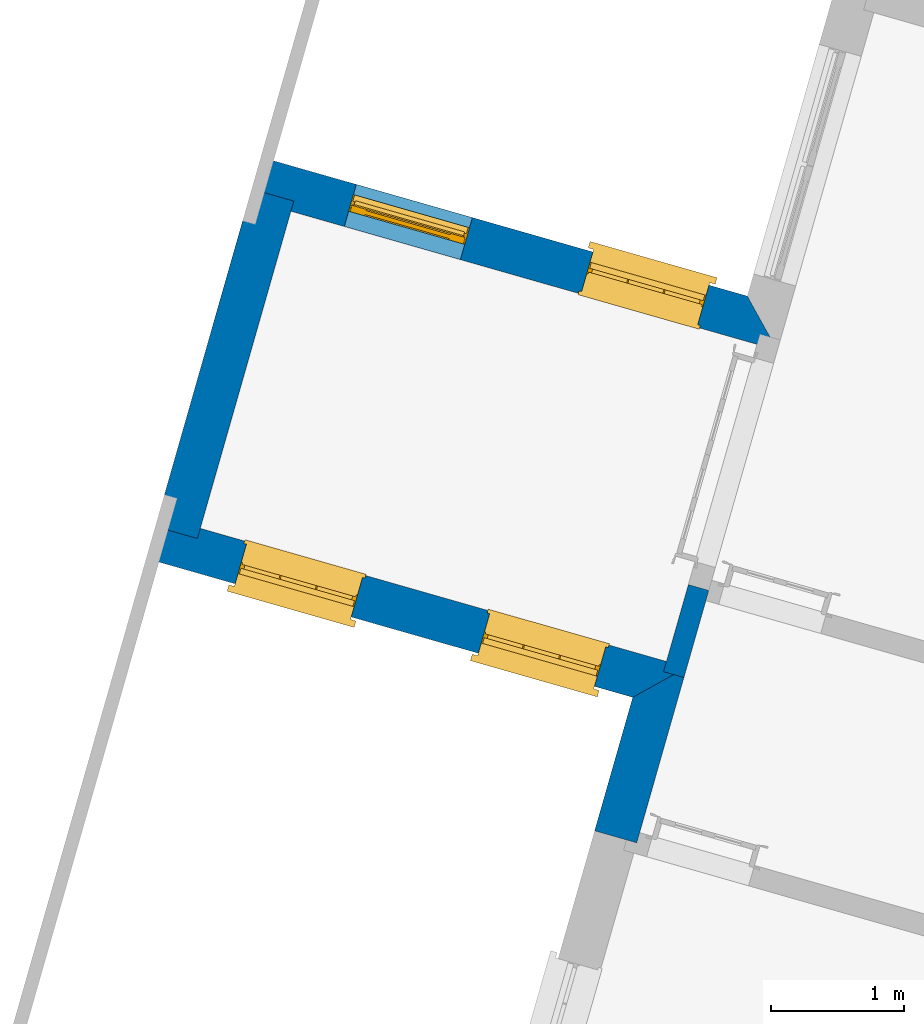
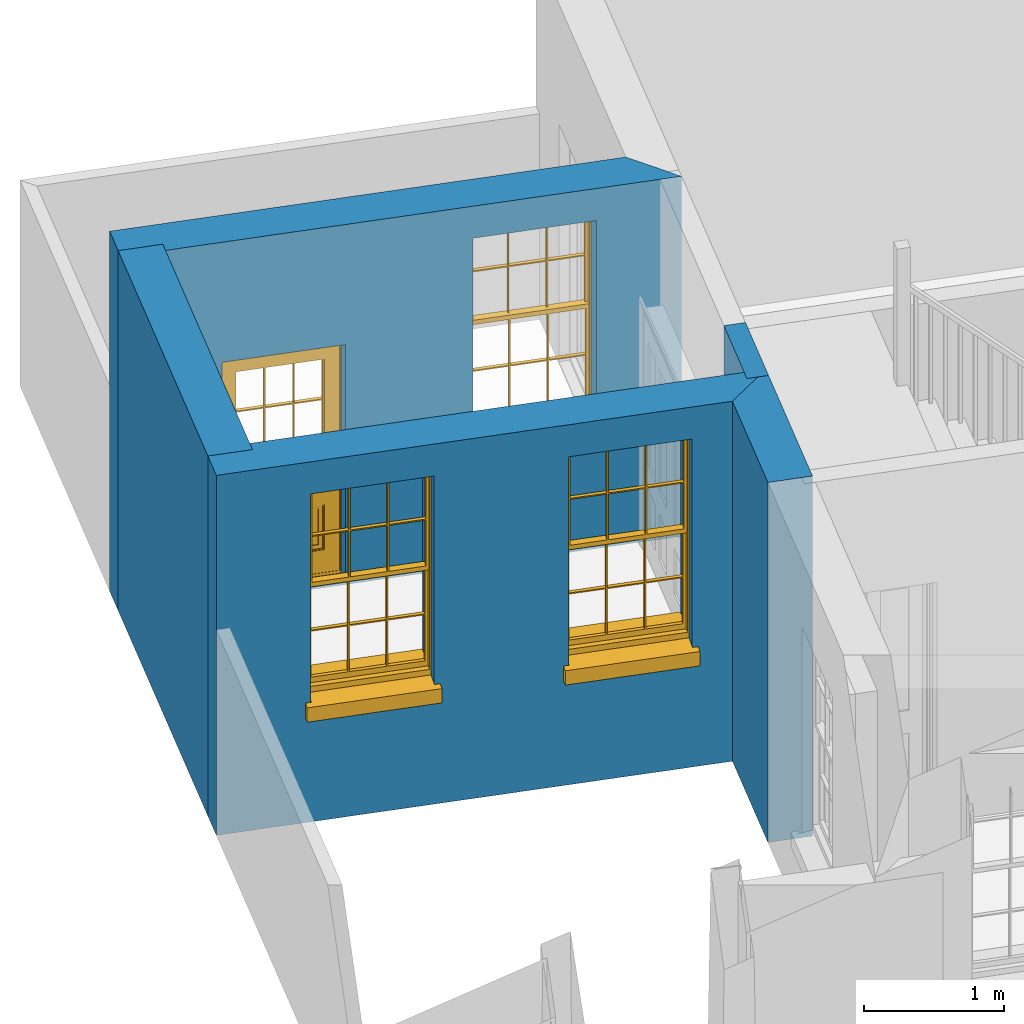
# One storey, part 4 of 7: 5 walls, 3 windows, 1 door, 4 openings.
"""IFC4 building model written with IfcOpenShell, lengths in metres."""

from ifc_helpers import new_model, si_unit, frame, origin, origin_with_axes, place, context, subcontext, project, spatial, polyline, outline, extrude, faceted_brep, source, transform, mapped, material, layer, layer_set, layer_usage, type_object, type_shapes, element, fill, save


model = new_model("IFC4")

# Units and contexts
model_context = context("Model", 3, world=origin_with_axes())
body_context = subcontext(model_context, "Body", "Model", "MODEL_VIEW")
ifc_project = project(units=[si_unit("PLANEANGLEUNIT", "RADIAN"), si_unit("MASSUNIT", "GRAM", prefix="KILO"), si_unit("FORCEUNIT", "NEWTON", prefix="KILO"), si_unit("LENGTHUNIT", "METRE"), si_unit("AREAUNIT", "SQUARE_METRE"), si_unit("VOLUMEUNIT", "CUBIC_METRE")], contexts=[model_context, model_context])

# Sites, building, storey
site_1_placement = place(None, origin_with_axes())
site_1 = spatial("IfcSite", under=ifc_project, at=site_1_placement, Name="Tamar")
site_2_placement = place(site_1_placement, origin_with_axes())
site_2 = spatial("IfcSite", under=site_1, at=site_2_placement, Name="Site plot-20", CompositionType="ELEMENT")
building_placement = place(None, origin_with_axes())
building = spatial("IfcBuilding", under=site_2, at=building_placement, Name="Building plot-20", CompositionType="ELEMENT")
storey_placement = place(None, frame((0.0, 0.0, 26.0), z_axis=(0.0, 0.0, 1.0), x_axis=(1.0, 0.0, 0.0)))
storey = spatial("IfcBuildingStorey", under=building, at=storey_placement, Name="plot-20 0", CompositionType="ELEMENT", Elevation=26.0)

# Wall, openings, windows
ifc_material_1 = material(Name="Masonry")
ifc_layer_1 = layer(ifc_material_1, 0.33, ventilated=False)
ifc_layer_set_1 = layer_set([ifc_layer_1], Name="exterior_0.08_0.25")
ifc_layer_usage_1 = layer_usage(ifc_layer_set_1, "AXIS2", "POSITIVE", -0.25)
wall_type_1 = type_object("IfcWallType", Name="exterior_0.08_0.25", PredefinedType="SOLIDWALL", material=ifc_layer_set_1)
wall_1_placement = place(storey_placement, frame((273.733334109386, 289.843900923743, 0.0), z_axis=(0.0, 0.0, 1.0), x_axis=(0.961567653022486, -0.274568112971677, 0.0)))
wall_1 = element("IfcWall", 1, at=wall_1_placement, inside=storey, type_object=wall_type_1, material=ifc_layer_usage_1, Name="exterior", context=body_context, shape_type="SweptSolid", body=[
    extrude(outline(polyline([(-0.249999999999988, 0.0799999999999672), (-0.249999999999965, -0.250000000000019), (3.56323123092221, -0.24999999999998), (3.89323123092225, 0.0799999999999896), (-0.249999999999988, 0.0799999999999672)])), origin_with_axes(), (0.0, 0.0, 1.0), 3.15),
])
opening_1_placement = place(wall_1_placement, frame((0.446615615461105, 0.0, 1.05)))
opening_1 = element("IfcOpeningElement", 2, at=opening_1_placement, cuts=wall_1, Name="My Opening", ObjectType="Opening", context=body_context, shape_type="SweptSolid", body=[
    extrude(outline(polyline([(0.0, -0.269999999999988), (0.909999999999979, -0.26999999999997), (0.909999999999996, 1.09999999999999), (1.65978342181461e-14, 1.09999999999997), (0.0, -0.269999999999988)])), origin_with_axes(), (0.0, 0.0, 1.0), 1.82),
])
opening_2_placement = place(wall_1_placement, frame((2.35323123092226, 0.0, 1.05)))
opening_2 = element("IfcOpeningElement", 3, at=opening_2_placement, cuts=wall_1, Name="My Opening", ObjectType="Opening", context=body_context, shape_type="SweptSolid", body=[
    extrude(outline(polyline([(0.0, -0.270000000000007), (0.90999999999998, -0.26999999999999), (0.909999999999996, 1.09999999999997), (1.64313007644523e-14, 1.09999999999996), (0.0, -0.270000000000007)])), origin_with_axes(), (0.0, 0.0, 1.0), 1.82),
])
window_type = type_object("IfcWindowType", Name="sash_big", PartitioningType="DOUBLE_PANEL_HORIZONTAL", PredefinedType="NOTDEFINED")
shared_shape_1 = source(origin(), body_context, "Body", "Brep", [
    faceted_brep([(0.033125, 0.145, 0.975209), (0.01, 0.145, 0.975209), (0.033125, 0.145, 1.376042), (0.876875, 0.145, 0.975209), (0.876875, 0.145, 1.376042), (0.9, 0.145, 0.975209), (0.876875, 0.145, 1.386042), (0.876875, 0.145, 1.786875), (0.9, 0.145, 1.81), (0.033125, 0.145, 1.786875), (0.033125, 0.145, 1.386042), (0.01, 0.145, 1.81), (0.876875, 0.115, 1.376042), (0.876875, 0.115, 0.975209), (0.9, 0.115, 0.937083), (0.033125, 0.115, 1.786875), (0.01, 0.115, 1.81), (0.033125, 0.115, 1.386042), (0.01, 0.115, 0.937083), (0.033125, 0.115, 0.975209), (0.033125, 0.115, 1.376042), (0.876875, 0.115, 1.786875), (0.876875, 0.115, 1.386042), (0.9, 0.115, 1.81), (0.033125, 0.145, 0.937083), (0.01, 0.145, 0.937083), (0.033125, 0.145, 0.53625), (0.876875, 0.145, 0.937083), (0.876875, 0.145, 0.53625), (0.9, 0.145, 0.937083), (0.876875, 0.145, 0.52625), (0.876875, 0.145, 0.125417), (0.9, 0.145, 0.077167), (0.033125, 0.145, 0.125417), (0.033125, 0.145, 0.52625), (0.01, 0.145, 0.077167), (-0.0425, 0.0, 0.01), (-0.0425, -0.05, 0.001667), (0.0, 0.0, 0.01), (0.9525, 0.0, 0.01), (0.91, 0.0, 0.01), (0.9525, -0.05, 0.001667), (-0.02, 0.33, 0.077167), (0.0, 0.33, 0.077167), (-0.02, 0.36, 0.077167), (0.0, 0.19, 0.077167), (0.01, 0.19, 0.077167), (0.91, 0.19, 0.077167), (0.91, 0.33, 0.077167), (0.9, 0.19, 0.077167), (0.93, 0.33, 0.077167), (0.93, 0.36, 0.077167), (0.01, 0.175, 0.975209), (0.9, 0.175, 0.975209), (0.876875, 0.175, 0.125417), (0.876875, 0.175, 0.52625), (0.9, 0.175, 0.077167), (0.876875, 0.175, 0.53625), (0.876875, 0.175, 0.937083), (0.033125, 0.175, 0.125417), (0.01, 0.175, 0.077167), (0.033125, 0.175, 0.52625), (0.033125, 0.175, 0.937083), (0.033125, 0.175, 0.53625), (-0.02, 0.33, 0.052167), (-0.02, 0.36, 0.052167), (0.93, 0.36, 0.052167), (0.93, 0.33, 0.052167), (0.91, 0.33, 0.052167), (0.0, 0.33, 0.052167), (0.91, 0.1, 0.026667), (0.0, 0.1, 0.026667), (-0.0425, -0.05, -0.123333), (0.9525, -0.05, -0.123333), (-0.0425, 0.0, -0.123333), (0.9525, 0.0, -0.123333), (0.01, 0.19, 1.81), (0.9, 0.19, 1.81), (0.0, 0.19, 1.82), (0.91, 0.19, 1.82), (0.01, 0.1, 0.077167), (0.9, 0.1, 0.077167), (0.592292, 0.145, 0.125417), (0.592292, 0.175, 0.125417), (0.317708, 0.175, 0.125417), (0.317708, 0.145, 0.125417), (0.592292, 0.145, 0.53625), (0.317708, 0.145, 0.53625), (0.317708, 0.145, 0.52625), (0.592292, 0.145, 0.52625), (0.592292, 0.175, 0.53625), (0.317708, 0.175, 0.53625), (0.592292, 0.115, 1.386042), (0.592292, 0.145, 1.386042), (0.317708, 0.145, 1.386042), (0.317708, 0.115, 1.386042), (0.317708, 0.115, 1.376042), (0.592292, 0.115, 1.376042), (0.317708, 0.145, 1.376042), (0.592292, 0.145, 1.376042), (0.602292, 0.115, 1.376042), (0.592292, 0.115, 0.975209), (0.602292, 0.115, 0.975209), (0.602292, 0.145, 0.975209), (0.592292, 0.145, 0.975209), (0.602292, 0.145, 1.376042), (0.602292, 0.175, 0.53625), (0.602292, 0.145, 0.53625), (0.317708, 0.175, 0.52625), (0.307708, 0.175, 0.125417), (0.307708, 0.175, 0.52625), (0.602292, 0.175, 0.52625), (0.602292, 0.175, 0.125417), (0.592292, 0.175, 0.52625), (0.307708, 0.175, 0.53625), (0.317708, 0.175, 0.937083), (0.307708, 0.175, 0.937083), (0.602292, 0.175, 0.937083), (0.592292, 0.175, 0.937083), (0.307708, 0.145, 0.52625), (0.307708, 0.145, 0.125417), (0.307708, 0.145, 0.53625), (0.307708, 0.145, 0.937083), (0.592292, 0.145, 0.937083), (0.317708, 0.145, 0.937083), (0.602292, 0.145, 0.937083), (0.602292, 0.145, 0.52625), (0.602292, 0.145, 0.125417), (0.307708, 0.115, 1.386042), (0.307708, 0.115, 1.376042), (0.307708, 0.115, 0.975209), (0.317708, 0.115, 0.975209), (0.317708, 0.115, 1.786875), (0.307708, 0.115, 1.786875), (0.602292, 0.115, 1.786875), (0.592292, 0.115, 1.786875), (0.602292, 0.115, 1.386042), (0.602292, 0.145, 1.386042), (0.307708, 0.145, 1.386042), (0.307708, 0.145, 1.786875), (0.317708, 0.145, 1.786875), (0.592292, 0.145, 1.786875), (0.602292, 0.145, 1.786875), (0.307708, 0.145, 1.376042), (0.317708, 0.145, 0.975209), (0.307708, 0.145, 0.975209), (0.91, 0.1, 1.82), (0.9, 0.1, 1.81), (0.01, 0.1, 1.81), (0.0, 0.1, 1.82), (0.91, 0.0, 0.0), (0.0, 0.0, 0.0), (0.91, 0.33, 0.0), (0.0, 0.33, 0.0)], [[[0, 1, 2]], [[3, 4, 5]], [[6, 7, 8]], [[9, 10, 11]], [[12, 13, 14]], [[15, 16, 17]], [[18, 19, 20]], [[21, 22, 23]], [[24, 25, 26]], [[27, 28, 29]], [[30, 31, 32]], [[33, 34, 35]], [[14, 27, 29]], [[25, 24, 18]], [[36, 37, 38]], [[39, 40, 41]], [[42, 43, 44]], [[45, 46, 43]], [[47, 48, 49]], [[50, 51, 48]], [[1, 0, 52]], [[5, 53, 3]], [[54, 55, 56]], [[57, 58, 53]], [[59, 60, 61]], [[62, 63, 52]], [[48, 43, 46, 49]], [[51, 44, 43, 48]], [[64, 42, 44, 65]], [[65, 44, 51, 66]], [[66, 51, 50, 67]], [[65, 66, 68, 69]], [[60, 56, 49, 46]], [[70, 71, 38, 40]], [[37, 41, 40, 38]], [[37, 72, 73, 41]], [[74, 75, 73, 72]], [[8, 11, 76, 77]], [[76, 78, 79, 77]], [[32, 35, 80, 81]], [[81, 80, 71, 70]], [[82, 83, 84, 85]], [[86, 87, 88, 89]], [[86, 90, 91, 87]], [[92, 93, 94, 95]], [[92, 95, 96, 97]], [[96, 98, 99, 97]], [[100, 97, 101, 102]], [[103, 104, 99, 105]], [[97, 99, 104, 101]], [[102, 103, 105, 100]], [[28, 57, 106, 107]], [[108, 84, 109, 110]], [[111, 112, 83, 113]], [[114, 110, 61, 63]], [[90, 113, 108, 91]], [[115, 91, 114, 116]], [[117, 106, 90, 118]], [[111, 106, 57, 55]], [[119, 110, 109, 120]], [[34, 61, 110, 119]], [[89, 113, 83, 82]], [[88, 108, 113, 89]], [[85, 84, 108, 88]], [[121, 114, 63, 26]], [[122, 116, 114, 121]], [[123, 118, 90, 86]], [[87, 91, 115, 124]], [[107, 106, 117, 125]], [[126, 111, 55, 30]], [[127, 112, 111, 126]], [[126, 30, 28, 107]], [[88, 119, 120, 85]], [[126, 89, 82, 127]], [[125, 123, 86, 107]], [[121, 26, 34, 119]], [[124, 122, 121, 87]], [[128, 17, 20, 129]], [[96, 129, 130, 131]], [[132, 133, 128, 95]], [[134, 135, 92, 136]], [[100, 12, 22, 136]], [[137, 6, 4, 105]], [[94, 138, 139, 140]], [[137, 93, 141, 142]], [[99, 98, 94, 93]], [[143, 2, 10, 138]], [[144, 145, 143, 98]], [[129, 143, 145, 130]], [[20, 2, 143, 129]], [[131, 144, 98, 96]], [[128, 138, 10, 17]], [[133, 139, 138, 128]], [[135, 141, 93, 92]], [[95, 94, 140, 132]], [[22, 6, 137, 136]], [[136, 137, 142, 134]], [[100, 105, 4, 12]], [[107, 86, 89, 126]], [[106, 111, 113, 90]], [[91, 108, 110, 114]], [[87, 121, 119, 88]], [[97, 100, 136, 92]], [[129, 96, 95, 128]], [[98, 143, 138, 94]], [[105, 99, 93, 137]], [[131, 101, 104, 144]], [[124, 115, 118, 123]], [[132, 140, 141, 135]], [[120, 109, 59, 33]], [[15, 9, 139, 133]], [[134, 142, 7, 21]], [[31, 54, 112, 127]], [[36, 74, 72, 37]], [[39, 41, 73, 75]], [[18, 14, 101, 131]], [[23, 16, 132, 135]], [[83, 56, 60, 84]], [[52, 53, 118, 115]], [[53, 52, 144, 104]], [[11, 8, 141, 140]], [[14, 18, 124, 123]], [[2, 1, 11, 10]], [[8, 5, 4, 6]], [[57, 53, 56, 55]], [[60, 52, 63, 61]], [[26, 25, 35, 34]], [[32, 29, 28, 30]], [[14, 23, 22, 12]], [[18, 20, 17, 16]], [[19, 0, 2, 20]], [[17, 10, 9, 15]], [[12, 4, 3, 13]], [[21, 7, 6, 22]], [[27, 58, 57, 28]], [[30, 55, 54, 31]], [[33, 59, 61, 34]], [[26, 63, 62, 24]], [[5, 8, 77, 53]], [[76, 11, 1, 52]], [[46, 45, 78, 76]], [[49, 77, 79, 47]], [[70, 146, 147, 81]], [[71, 80, 148, 149]], [[19, 130, 145, 0]], [[102, 13, 3, 103]], [[116, 122, 24, 62]], [[29, 32, 81, 14]], [[80, 35, 25, 18]], [[60, 46, 76, 52]], [[77, 49, 56, 53]], [[23, 14, 81, 147]], [[16, 148, 80, 18]], [[35, 85, 120]], [[120, 33, 35]], [[127, 82, 32]], [[32, 31, 127]], [[32, 82, 85, 35]], [[102, 101, 14]], [[14, 13, 102]], [[18, 131, 130]], [[130, 19, 18]], [[134, 21, 23]], [[23, 135, 134]], [[16, 15, 133]], [[133, 132, 16]], [[11, 140, 139]], [[139, 9, 11]], [[142, 141, 8]], [[8, 7, 142]], [[23, 147, 148, 16]], [[146, 149, 148, 147]], [[52, 115, 116]], [[116, 62, 52]], [[118, 53, 117]], [[58, 117, 53]], [[27, 125, 117, 58]], [[56, 83, 112]], [[112, 54, 56]], [[109, 84, 60]], [[60, 59, 109]], [[125, 27, 14]], [[14, 123, 125]], [[122, 124, 18]], [[18, 24, 122]], [[145, 144, 52]], [[52, 0, 145]], [[103, 3, 53]], [[53, 104, 103]], [[79, 78, 149, 146]], [[78, 45, 71, 149]], [[146, 70, 47, 79]], [[150, 75, 74, 151]], [[68, 66, 67]], [[48, 68, 67, 50]], [[69, 64, 65]], [[42, 64, 69, 43]], [[69, 68, 152, 153]], [[70, 68, 48, 47]], [[150, 152, 68, 70]], [[43, 69, 71, 45]], [[69, 153, 151, 71]], [[152, 150, 151, 153]], [[38, 151, 74, 36]], [[71, 151, 38]], [[39, 75, 150, 40]], [[40, 150, 70]]]),
])
type_shapes(window_type, [shared_shape_1])
window_1_placement = place(storey_placement, frame((274.088651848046, 289.461651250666, 1.05), z_axis=(0.0, 0.0, 1.0), x_axis=(0.875026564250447, -0.249856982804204, 0.0)))
window_1 = element("IfcWindow", 4, at=window_1_placement, inside=storey, type_object=window_type, Name="kitchen outside window", OverallHeight=1.82, OverallWidth=0.91, context=body_context, shape_type="MappedRepresentation", body=[
    mapped(shared_shape_1, transform((0.0, 0.0, 0.0), scale=1.0)),
])
fill(opening_1, window_1)
window_2_placement = place(storey_placement, frame((275.921991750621, 288.938155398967, 1.05), z_axis=(0.0, 0.0, 1.0), x_axis=(0.875026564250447, -0.249856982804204, 0.0)))
window_2 = element("IfcWindow", 5, at=window_2_placement, inside=storey, type_object=window_type, Name="kitchen outside window", OverallHeight=1.82, OverallWidth=0.91, context=body_context, shape_type="MappedRepresentation", body=[
    mapped(shared_shape_1, transform((0.0, 0.0, 0.0), scale=1.0)),
])
fill(opening_2, window_2)

# Wall
wall_2_placement = place(storey_placement, frame((277.400013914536, 288.796909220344, 0.0), z_axis=(0.0, 0.0, 1.0), x_axis=(-0.274568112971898, -0.961567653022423, 0.0)))
element("IfcWall", 6, at=wall_2_placement, inside=storey, type_object=wall_type_1, material=ifc_layer_usage_1, Name="exterior", context=body_context, shape_type="SweptSolid", body=[
    extrude(outline(polyline([(-0.0800000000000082, 0.0799999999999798), (0.250000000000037, -0.249999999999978), (1.2961808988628, -0.250000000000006), (1.29618089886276, 0.079999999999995), (-0.0800000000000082, 0.0799999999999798)])), origin_with_axes(), (0.0, 0.0, 1.0), 3.15),
])

# Wall, openings, door, window
wall_3_placement = place(storey_placement, frame((278.126350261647, 291.340618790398, 0.0), z_axis=(0.0, 0.0, 1.0), x_axis=(-0.961567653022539, 0.274568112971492, 0.0)))
wall_3 = element("IfcWall", 7, at=wall_3_placement, inside=storey, type_object=wall_type_1, material=ifc_layer_usage_1, Name="exterior", context=body_context, shape_type="SweptSolid", body=[
    extrude(outline(polyline([(-0.0799999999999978, 0.0799999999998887), (0.249999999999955, -0.249999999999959), (4.06323123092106, -0.250000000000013), (4.06323123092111, 0.079999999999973), (-0.0799999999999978, 0.0799999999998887)])), origin_with_axes(), (0.0, 0.0, 1.0), 3.15),
])
opening_3_placement = place(wall_3_placement, frame((0.550000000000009, 0.0, 1.05)))
opening_3 = element("IfcOpeningElement", 8, at=opening_3_placement, cuts=wall_3, Name="My Opening", ObjectType="Opening", context=body_context, shape_type="SweptSolid", body=[
    extrude(outline(polyline([(0.0, -0.270000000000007), (0.910000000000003, -0.27000000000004), (0.910000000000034, 1.09999999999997), (3.07531777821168e-14, 1.1), (0.0, -0.270000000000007)])), origin_with_axes(), (0.0, 0.0, 1.0), 1.82),
])
opening_4_placement = place(wall_3_placement, frame((2.40492342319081, 0.0, 0.0199999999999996)))
opening_4 = element("IfcOpeningElement", 9, at=opening_4_placement, cuts=wall_3, Name="My Opening", ObjectType="Opening", context=body_context, shape_type="SweptSolid", body=[
    extrude(outline(polyline([(0.0, -0.270000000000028), (0.909999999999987, -0.270000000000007), (0.910000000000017, 1.1), (3.06421554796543e-14, 1.09999999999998), (0.0, -0.270000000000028)])), origin_with_axes(), (0.0, 0.0, 1.0), 2.08),
])
door_type = type_object("IfcDoorType", Name="door_panelled", OperationType="SINGLE_SWING_LEFT", PredefinedType="NOTDEFINED")
shared_shape_2 = source(origin(), body_context, "Body", "Brep", [
    faceted_brep([(0.545, 0.195, 0.265), (0.745, 0.195, 0.265), (0.745, 0.2, 0.265), (0.545, 0.2, 0.265), (0.745, 0.2, 0.58), (0.545, 0.2, 0.58), (0.545, 0.195, 0.58), (0.515, 0.19, 0.235), (0.775, 0.19, 0.235), (0.745, 0.195, 0.58), (0.515, 0.19, 0.61), (0.515, 0.185, 0.235), (0.775, 0.185, 0.235), (0.775, 0.19, 0.61), (0.515, 0.185, 0.61), (0.785, 0.185, 0.225), (0.505, 0.185, 0.225), (0.775, 0.185, 0.61), (0.505, 0.185, 0.62), (0.785, 0.185, 0.62), (0.505, 0.18, 0.225), (0.785, 0.18, 0.225), (0.505, 0.18, 0.62), (0.785, 0.18, 0.62), (0.883, 0.18, 0.075), (0.898, 0.18, 0.075), (0.405, 0.18, 0.62), (0.405, 0.18, 0.225), (0.027, 0.18, 0.075), (0.785, 0.18, 0.82), (0.125, 0.18, 0.82), (0.405, 0.185, 0.62), (0.405, 0.185, 0.225), (0.898, 0.18, 2.068), (0.027, 0.17, 0.075), (0.883, 0.17, 0.075), (0.125, 0.18, 0.225), (0.012, 0.18, 0.075), (0.785, 0.19, 0.82), (0.125, 0.19, 0.82), (0.125, 0.18, 0.62), (0.125, 0.185, 0.62), (0.395, 0.185, 0.61), (0.395, 0.185, 0.235), (0.125, 0.185, 0.225), (0.785, 0.18, 1.895), (0.027, 0.14, 0.045), (0.883, 0.14, 0.045), (0.558333, 0.19, 0.83), (0.351667, 0.19, 0.83), (0.125, 0.18, 1.895), (0.125, 0.19, 1.895), (0.785, 0.19, 1.895), (0.012, 0.18, 2.068), (0.135, 0.185, 0.61), (0.395, 0.19, 0.61), (0.395, 0.19, 0.235), (0.135, 0.185, 0.235), (0.027, 0.14, 0.027), (0.883, 0.14, 0.027), (0.568333, 0.19, 0.83), (0.558333, 0.22, 0.83), (0.351667, 0.22, 0.83), (0.341667, 0.19, 0.83), (0.135, 0.19, 1.185), (0.135, 0.19, 1.53), (0.775, 0.19, 1.53), (0.775, 0.19, 1.185), (0.135, 0.19, 0.61), (0.365, 0.195, 0.58), (0.365, 0.195, 0.265), (0.135, 0.19, 0.235), (0.568333, 0.19, 1.175), (0.558333, 0.19, 1.175), (0.775, 0.19, 0.83), (0.558333, 0.22, 1.175), (0.785, 0.22, 0.82), (0.125, 0.22, 0.82), (0.351667, 0.22, 1.175), (0.351667, 0.19, 1.175), (0.341667, 0.19, 1.175), (0.135, 0.19, 0.83), (0.135, 0.19, 1.175), (0.135, 0.22, 1.185), (0.135, 0.22, 1.53), (0.135, 0.19, 1.54), (0.351667, 0.19, 1.885), (0.558333, 0.19, 1.885), (0.775, 0.22, 1.53), (0.775, 0.22, 1.185), (0.775, 0.19, 1.175), (0.775, 0.19, 1.54), (0.165, 0.195, 0.58), (0.365, 0.2, 0.58), (0.365, 0.2, 0.265), (0.165, 0.195, 0.265), (0.568333, 0.22, 0.83), (0.568333, 0.22, 1.175), (0.568333, 0.19, 1.185), (0.558333, 0.19, 1.185), (0.775, 0.22, 0.83), (0.785, 0.23, 0.82), (0.125, 0.23, 0.82), (0.341667, 0.22, 0.83), (0.341667, 0.22, 1.175), (0.351667, 0.19, 1.185), (0.341667, 0.19, 1.185), (0.135, 0.22, 0.83), (0.341667, 0.22, 1.185), (0.125, 0.22, 1.895), (0.341667, 0.22, 1.53), (0.341667, 0.19, 1.53), (0.135, 0.19, 1.885), (0.341667, 0.19, 1.54), (0.341667, 0.19, 1.885), (0.558333, 0.22, 1.885), (0.351667, 0.22, 1.885), (0.568333, 0.19, 1.885), (0.785, 0.22, 1.895), (0.568333, 0.22, 1.185), (0.568333, 0.19, 1.53), (0.568333, 0.22, 1.53), (0.568333, 0.19, 1.54), (0.775, 0.19, 1.885), (0.165, 0.2, 0.58), (0.165, 0.2, 0.265), (0.775, 0.22, 1.175), (0.558333, 0.19, 1.53), (0.351667, 0.22, 1.185), (0.558333, 0.22, 1.185), (0.505, 0.23, 0.62), (0.405, 0.23, 0.62), (0.125, 0.23, 1.895), (0.785, 0.23, 1.895), (0.351667, 0.19, 1.53), (0.135, 0.22, 1.175), (0.135, 0.22, 1.54), (0.341667, 0.22, 1.54), (0.135, 0.22, 1.885), (0.351667, 0.19, 1.54), (0.558333, 0.22, 1.54), (0.558333, 0.19, 1.54), (0.351667, 0.22, 1.54), (0.775, 0.22, 1.54), (0.568333, 0.22, 1.54), (0.775, 0.22, 1.885), (0.558333, 0.22, 1.53), (0.405, 0.23, 0.225), (0.505, 0.23, 0.225), (0.125, 0.23, 0.62), (0.785, 0.23, 0.62), (0.012, 0.23, 2.068), (0.898, 0.23, 2.068), (0.351667, 0.22, 1.53), (0.341667, 0.22, 1.885), (0.568333, 0.22, 1.885), (0.405, 0.225, 0.225), (0.405, 0.225, 0.62), (0.505, 0.225, 0.62), (0.505, 0.225, 0.225), (0.898, 0.23, 0.027), (0.012, 0.23, 0.027), (0.125, 0.225, 0.62), (0.785, 0.225, 0.62), (0.395, 0.225, 0.235), (0.395, 0.225, 0.61), (0.125, 0.23, 0.225), (0.125, 0.225, 0.225), (0.515, 0.225, 0.61), (0.515, 0.225, 0.235), (0.785, 0.23, 0.225), (0.785, 0.225, 0.225), (0.135, 0.225, 0.61), (0.775, 0.225, 0.61), (0.135, 0.225, 0.235), (0.395, 0.22, 0.235), (0.395, 0.22, 0.61), (0.515, 0.22, 0.61), (0.515, 0.22, 0.235), (0.775, 0.225, 0.235), (0.135, 0.22, 0.61), (0.775, 0.22, 0.61), (0.135, 0.22, 0.235), (0.365, 0.215, 0.265), (0.365, 0.215, 0.58), (0.545, 0.215, 0.58), (0.545, 0.215, 0.265), (0.775, 0.22, 0.235), (0.165, 0.215, 0.58), (0.745, 0.215, 0.58), (0.165, 0.215, 0.265), (0.365, 0.21, 0.58), (0.365, 0.21, 0.265), (0.545, 0.21, 0.58), (0.545, 0.21, 0.265), (0.745, 0.215, 0.265), (0.165, 0.21, 0.58), (0.745, 0.21, 0.58), (0.165, 0.21, 0.265), (0.745, 0.21, 0.265), (0.885, 0.178, 0.025), (0.025, 0.178, 0.025), (0.025, 0.15, 0.025), (0.885, 0.15, 0.025), (0.9, 0.23, 0.025), (0.01, 0.23, 0.025), (0.9, 0.178, 0.025), (0.91, 0.23, 0.0), (0.0, 0.23, 0.0), (0.01, 0.178, 0.025), (0.9, 0.178, 2.07), (0.9, 0.23, 2.07), (0.885, 0.178, 2.055), (0.91, 0.23, 2.08), (0.01, 0.23, 2.07), (0.0, 0.23, 2.08), (0.01, 0.178, 2.07), (0.025, 0.178, 2.055), (0.0, 0.1, 2.08), (0.91, 0.1, 2.08), (0.01, 0.1, 2.07), (0.9, 0.1, 2.07), (0.01, 0.15, 2.07), (0.9, 0.15, 2.07), (0.0, 0.1, 0.0), (0.91, 0.1, 0.0), (0.01, 0.1, 0.025), (0.9, 0.1, 0.025), (0.01, 0.15, 0.025), (0.025, 0.15, 2.055), (0.9, 0.15, 0.025), (0.885, 0.15, 2.055), (0.898, 0.18, 0.027), (0.012, 0.18, 0.027), (0.883, 0.18, 0.027), (0.027, 0.18, 0.027)], [[[0, 1, 2, 3]], [[2, 4, 5, 3]], [[0, 3, 5, 6]], [[1, 0, 7, 8]], [[9, 4, 2, 1]], [[9, 6, 5, 4]], [[0, 6, 10, 7]], [[8, 7, 11, 12]], [[8, 13, 9, 1]], [[13, 10, 6, 9]], [[7, 10, 14, 11]], [[15, 12, 11, 16]], [[12, 17, 13, 8]], [[17, 14, 10, 13]], [[18, 16, 11, 14]], [[15, 19, 17, 12]], [[15, 16, 20, 21]], [[14, 17, 19, 18]], [[16, 18, 22, 20]], [[21, 23, 19, 15]], [[24, 25, 21, 20]], [[23, 22, 18, 19]], [[20, 22, 26, 27]], [[23, 21, 25]], [[28, 24, 20, 27]], [[22, 23, 29]], [[29, 30, 26, 22]], [[27, 26, 31, 32]], [[23, 25, 33, 29]], [[34, 35, 24, 28]], [[28, 27, 36, 37]], [[38, 39, 30, 29]], [[26, 30, 40]], [[26, 40, 41, 31]], [[42, 43, 32, 31]], [[32, 44, 36, 27]], [[33, 45, 29]], [[46, 47, 35, 34]], [[36, 40, 37]], [[39, 38, 48, 49]], [[50, 30, 39, 51]], [[29, 45, 52, 38]], [[53, 37, 40, 30]], [[44, 41, 40, 36]], [[31, 41, 54, 42]], [[43, 42, 55, 56]], [[57, 44, 32, 43]], [[50, 45, 33, 53]], [[47, 46, 58, 59]], [[60, 48, 38]], [[49, 48, 61, 62]], [[49, 63, 39]], [[50, 53, 30]], [[51, 39, 64, 65]], [[45, 50, 51, 52]], [[66, 67, 38, 52]], [[57, 54, 41, 44]], [[42, 54, 68, 55]], [[56, 55, 69, 70]], [[56, 71, 57, 43]], [[60, 72, 73, 48]], [[60, 38, 74]], [[48, 73, 75, 61]], [[76, 77, 62, 61]], [[62, 78, 79, 49]], [[49, 79, 80, 63]], [[63, 81, 39]], [[82, 64, 39]], [[65, 64, 83, 84]], [[85, 51, 65]], [[52, 51, 86, 87]], [[88, 89, 67, 66]], [[90, 38, 67]], [[91, 66, 52]], [[71, 68, 54, 57]], [[55, 68, 92, 69]], [[69, 93, 94, 70]], [[70, 95, 71, 56]], [[96, 97, 72, 60]], [[73, 72, 98, 99]], [[74, 38, 90]], [[100, 96, 60, 74]], [[75, 73, 79, 78]], [[61, 75, 97, 96]], [[101, 102, 77, 76]], [[77, 103, 62]], [[96, 76, 61]], [[103, 104, 78, 62]], [[80, 79, 105, 106]], [[63, 80, 104, 103]], [[81, 63, 103, 107]], [[81, 82, 39]], [[106, 64, 82, 80]], [[106, 108, 83, 64]], [[84, 83, 77, 109]], [[110, 111, 65, 84]], [[112, 51, 85]], [[113, 85, 65, 111]], [[114, 86, 51]], [[115, 87, 86, 116]], [[117, 52, 87]], [[118, 76, 89, 88]], [[119, 98, 67, 89]], [[120, 121, 88, 66]], [[67, 98, 72, 90]], [[91, 122, 120, 66]], [[91, 52, 123]], [[95, 92, 68, 71]], [[69, 92, 124, 93]], [[94, 93, 124, 125]], [[94, 125, 95, 70]], [[72, 97, 126, 90]], [[127, 99, 98, 120]], [[99, 105, 79, 73]], [[74, 90, 126, 100]], [[96, 100, 76]], [[128, 129, 75, 78]], [[97, 75, 129, 119]], [[130, 131, 102, 101]], [[109, 77, 102, 132]], [[133, 101, 76, 118]], [[77, 107, 103]], [[78, 104, 108, 128]], [[111, 106, 105, 134]], [[104, 80, 82, 135]], [[107, 135, 82, 81]], [[110, 108, 106, 111]], [[104, 135, 83, 108]], [[83, 135, 77]], [[136, 84, 109]], [[110, 84, 136, 137]], [[114, 51, 112]], [[85, 136, 138, 112]], [[113, 137, 136, 85]], [[111, 134, 139, 113]], [[86, 114, 113, 139]], [[140, 141, 87, 115]], [[139, 142, 116, 86]], [[109, 118, 115, 116]], [[117, 123, 52]], [[117, 87, 141, 122]], [[126, 89, 76]], [[143, 118, 88]], [[120, 98, 119, 121]], [[119, 89, 126, 97]], [[144, 143, 88, 121]], [[144, 122, 91, 143]], [[127, 120, 122, 141]], [[143, 91, 123, 145]], [[124, 92, 95, 125]], [[146, 129, 99, 127]], [[99, 129, 128, 105]], [[100, 126, 76]], [[121, 119, 129, 146]], [[147, 131, 130, 148]], [[131, 149, 102]], [[130, 101, 150]], [[102, 151, 132]], [[118, 109, 132, 133]], [[101, 133, 152]], [[107, 77, 135]], [[153, 128, 108, 110]], [[134, 105, 128, 153]], [[109, 138, 136]], [[153, 110, 137, 142]], [[154, 114, 112, 138]], [[137, 113, 114, 154]], [[141, 139, 134, 127]], [[141, 140, 142, 139]], [[144, 140, 115, 155]], [[142, 137, 154, 116]], [[155, 115, 118]], [[116, 154, 109]], [[117, 155, 145, 123]], [[122, 144, 155, 117]], [[143, 145, 118]], [[121, 146, 140, 144]], [[146, 127, 134, 153]], [[156, 157, 131, 147]], [[148, 130, 158, 159]], [[148, 160, 161, 147]], [[157, 162, 149, 131]], [[161, 151, 102, 149]], [[101, 152, 160, 150]], [[163, 158, 130, 150]], [[151, 152, 133, 132]], [[154, 138, 109]], [[142, 140, 146, 153]], [[145, 155, 118]], [[157, 156, 164, 165]], [[147, 166, 167, 156]], [[168, 169, 159, 158]], [[170, 148, 159, 171]], [[148, 170, 160]], [[166, 147, 161]], [[172, 162, 157, 165]], [[166, 149, 162, 167]], [[166, 161, 149]], [[150, 160, 170]], [[163, 173, 168, 158]], [[171, 163, 150, 170]], [[174, 164, 156, 167]], [[175, 176, 165, 164]], [[169, 168, 177, 178]], [[171, 159, 169, 179]], [[167, 162, 172, 174]], [[176, 180, 172, 165]], [[179, 173, 163, 171]], [[181, 177, 168, 173]], [[164, 174, 182, 175]], [[183, 184, 176, 175]], [[178, 177, 185, 186]], [[179, 169, 178, 187]], [[174, 172, 180, 182]], [[184, 188, 180, 176]], [[187, 181, 173, 179]], [[189, 185, 177, 181]], [[175, 182, 190, 183]], [[191, 184, 183, 192]], [[185, 193, 194, 186]], [[187, 178, 186, 195]], [[182, 180, 188, 190]], [[191, 196, 188, 184]], [[195, 189, 181, 187]], [[197, 193, 185, 189]], [[183, 190, 198, 192]], [[198, 196, 191, 192]], [[194, 193, 197, 199]], [[195, 186, 194, 199]], [[188, 196, 198, 190]], [[197, 189, 195, 199]], [[200, 201, 202, 203]], [[201, 200, 204, 205]], [[206, 204, 200]], [[204, 207, 208, 205]], [[209, 201, 205]], [[210, 211, 204, 206]], [[206, 200, 212, 210]], [[211, 213, 207, 204]], [[214, 205, 208, 215]], [[216, 217, 201, 209]], [[205, 214, 216, 209]], [[216, 214, 211, 210]], [[210, 212, 217, 216]], [[214, 215, 213, 211]], [[218, 219, 213, 215]], [[219, 218, 220, 221]], [[221, 220, 222, 223]], [[215, 208, 224, 218]], [[225, 224, 208, 207]], [[224, 226, 220, 218]], [[224, 225, 227, 226]], [[219, 225, 207, 213]], [[228, 222, 220, 226]], [[219, 221, 227, 225]], [[226, 227, 203, 202]], [[202, 229, 222, 228]], [[228, 226, 202]], [[227, 221, 223, 230]], [[230, 203, 227]], [[217, 229, 202, 201]], [[231, 223, 222, 229]], [[230, 223, 231, 203]], [[231, 229, 217, 212]], [[212, 200, 203, 231]], [[33, 152, 151, 53]], [[25, 160, 152, 33]], [[161, 37, 53, 151]], [[232, 160, 25]], [[161, 233, 37]], [[160, 232, 234]], [[24, 234, 232, 25]], [[233, 161, 235]], [[37, 233, 235, 28]], [[161, 160, 234, 235]], [[35, 47, 234, 24]], [[28, 235, 46, 34]], [[58, 235, 234, 59]], [[59, 234, 47]], [[58, 46, 235]]]),
])
type_shapes(door_type, [shared_shape_2])
door_placement = place(storey_placement, frame((275.887987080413, 292.260557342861, 0.0199999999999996), z_axis=(0.0, 0.0, 1.0), x_axis=(-0.875026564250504, 0.249856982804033, 0.0)))
door = element("IfcDoor", 10, at=door_placement, inside=storey, type_object=door_type, Name="kitchen outside door", OverallHeight=2.08, OverallWidth=0.91, context=body_context, shape_type="MappedRepresentation", body=[
    mapped(shared_shape_2, transform((0.0, 0.0, 0.0), scale=1.0)),
])
fill(opening_4, door)
window_3_placement = place(storey_placement, frame((277.671621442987, 291.751254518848, 1.05), z_axis=(0.0, 0.0, 1.0), x_axis=(-0.875026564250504, 0.24985698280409, 0.0)))
window_3 = element("IfcWindow", 11, at=window_3_placement, inside=storey, type_object=window_type, Name="kitchen outside window", OverallHeight=1.82, OverallWidth=0.91, context=body_context, shape_type="MappedRepresentation", body=[
    mapped(shared_shape_1, transform((0.0, 0.0, 0.0), scale=1.0)),
])
fill(opening_3, window_3)

# Walls
ifc_material_2 = material(Name="Masonry")
ifc_layer_2 = layer(ifc_material_2, 0.33, ventilated=False)
ifc_layer_set_2 = layer_set([ifc_layer_2], Name="party_0.08_0.25")
ifc_layer_usage_2 = layer_usage(ifc_layer_set_2, "AXIS2", "POSITIVE", -0.25)
wall_type_2 = type_object("IfcWallType", Name="party_0.08_0.25", PredefinedType="SOLIDWALL", material=ifc_layer_set_2)
wall_4_placement = place(storey_placement, frame((274.459670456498, 292.387610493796, 0.0), z_axis=(0.0, 0.0, 1.0), x_axis=(-0.274568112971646, -0.961567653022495, 0.0)))
element("IfcWall", 12, at=wall_4_placement, inside=storey, type_object=wall_type_2, material=ifc_layer_usage_2, Name="party", context=body_context, shape_type="SweptSolid", body=[
    extrude(outline(polyline([(6.73546022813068e-15, 0.079999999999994), (1.88890995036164e-14, -0.249999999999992), (2.645377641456, -0.249999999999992), (2.64537764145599, 0.0799999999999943), (6.73546022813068e-15, 0.079999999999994)])), origin_with_axes(), (0.0, 0.0, 1.0), 3.15),
])
ifc_material_3 = material(Name="Masonry")
ifc_layer_3 = layer(ifc_material_3, 0.16, ventilated=False)
ifc_layer_set_3 = layer_set([ifc_layer_3], Name="interior_0.08_0.08")
ifc_layer_usage_3 = layer_usage(ifc_layer_set_3, "AXIS2", "POSITIVE", -0.08)
wall_type_3 = type_object("IfcWallType", Name="interior_0.08_0.08", PredefinedType="SOLIDWALL", material=ifc_layer_set_3)
wall_5_placement = place(storey_placement, frame((277.587269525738, 289.452698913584, 0.0), z_axis=(0.0, 0.0, 1.0), x_axis=(-0.274568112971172, -0.96156765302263, 0.0)))
element("IfcWall", 13, at=wall_5_placement, inside=storey, type_object=wall_type_3, material=ifc_layer_usage_3, Name="interior", context=body_context, shape_type="SweptSolid", body=[
    extrude(outline(polyline([(-8.47015431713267e-15, 0.0799999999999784), (8.46035714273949e-15, -0.0799999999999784), (0.682000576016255, -0.0799999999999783), (0.682000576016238, 0.0799999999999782), (-8.47015431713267e-15, 0.0799999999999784)])), origin_with_axes(), (0.0, 0.0, 1.0), 3.15),
])

save(model, "model.ifc")
